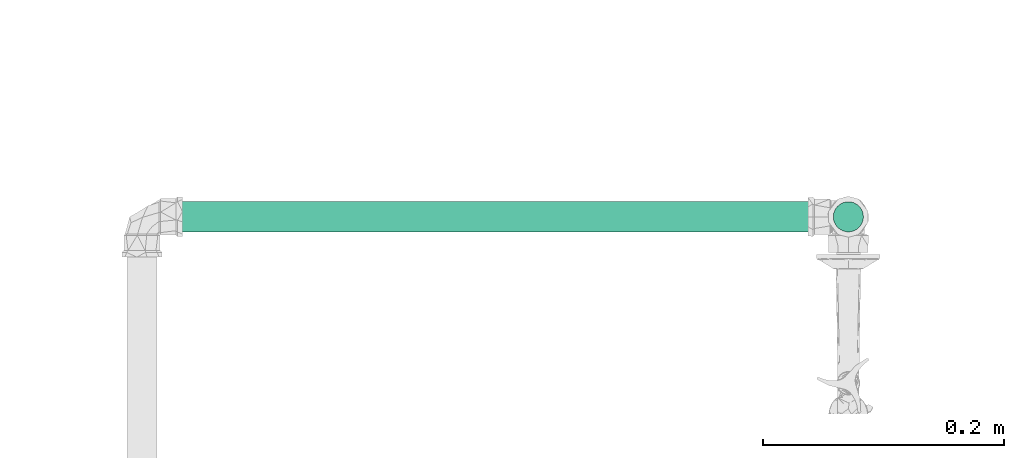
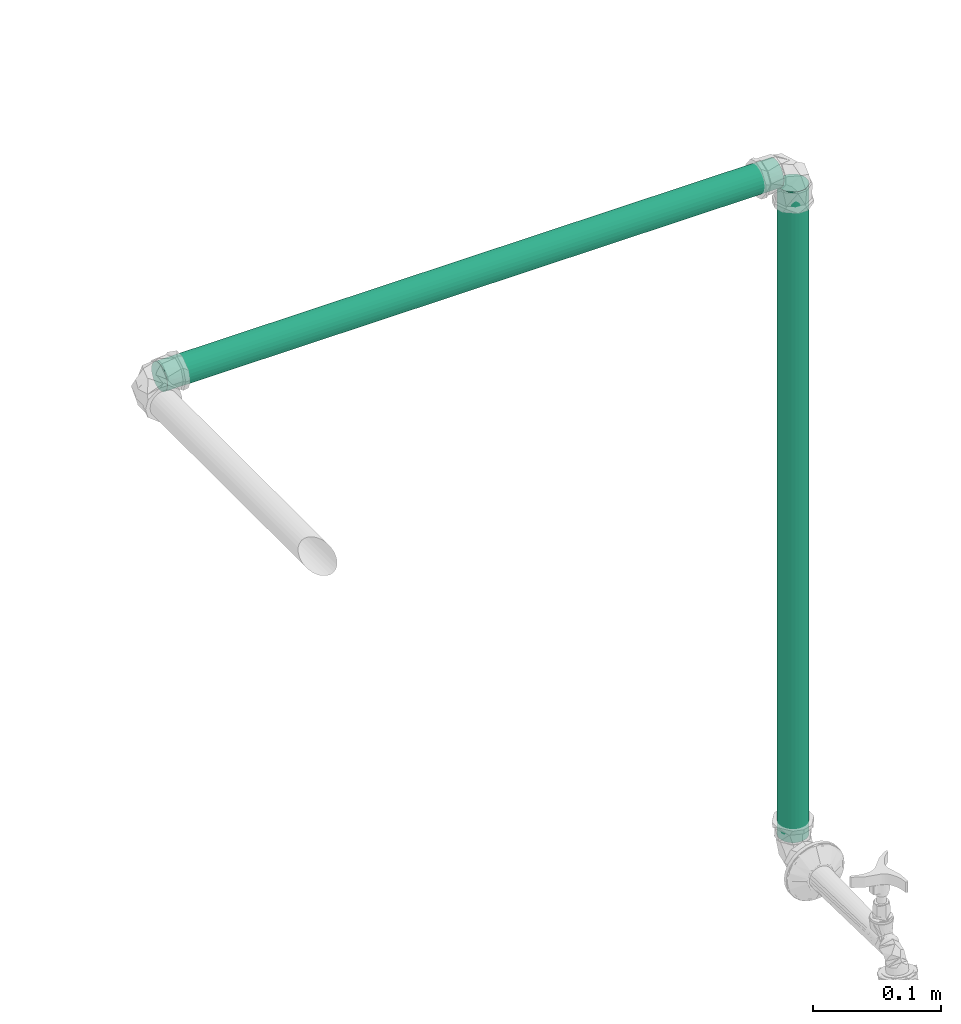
# One storey, part 275 of 589: 2 flow segments.
"""IFC2X3 building model written with IfcOpenShell, lengths in millimetres."""

from ifc_helpers import new_model, entity, si_unit, converted_unit, derived_unit, direction, frame, frame_2d, origin, origin_2d_with_axis, place, context, subcontext, project, spatial, circle, extrude, type_object, element, save


model = new_model("IFC2X3")

# Units and contexts
model_context = context("Model", 3, precision=0.01, world=origin(), true_north=direction((6.123031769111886e-17, 1.0)))
body_context = subcontext(model_context, "Body", "Model", "MODEL_VIEW")
ifc_project = project(units=[si_unit("LENGTHUNIT", "METRE", prefix="MILLI"), si_unit("AREAUNIT", "SQUARE_METRE"), si_unit("VOLUMEUNIT", "CUBIC_METRE"), converted_unit("PLANEANGLEUNIT", "DEGREE", entity("IfcRatioMeasure", 0.017453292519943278), si_unit("PLANEANGLEUNIT", "RADIAN"), dimensions=[0, 0, 0, 0, 0, 0, 0]), si_unit("MASSUNIT", "GRAM", prefix="KILO"), derived_unit("MASSDENSITYUNIT", [(si_unit("MASSUNIT", "GRAM", prefix="KILO"), 1), (si_unit("LENGTHUNIT", "METRE"), -3)]), derived_unit("IONCONCENTRATIONUNIT", [(si_unit("MASSUNIT", "GRAM", prefix="KILO"), 1), (si_unit("LENGTHUNIT", "METRE"), -3)]), derived_unit("MOMENTOFINERTIAUNIT", [(si_unit("LENGTHUNIT", "METRE"), 4)]), si_unit("TIMEUNIT", "SECOND"), si_unit("FREQUENCYUNIT", "HERTZ"), si_unit("THERMODYNAMICTEMPERATUREUNIT", "DEGREE_CELSIUS"), derived_unit("THERMALTRANSMITTANCEUNIT", [(si_unit("MASSUNIT", "GRAM", prefix="KILO"), 1), (si_unit("THERMODYNAMICTEMPERATUREUNIT", "KELVIN"), -1), (si_unit("TIMEUNIT", "SECOND"), -3)]), derived_unit("THERMALCONDUCTANCEUNIT", [(si_unit("MASSUNIT", "GRAM", prefix="KILO"), 1), (si_unit("THERMODYNAMICTEMPERATUREUNIT", "KELVIN"), -1), (si_unit("TIMEUNIT", "SECOND"), -3), (si_unit("LENGTHUNIT", "METRE"), 1)]), derived_unit("VOLUMETRICFLOWRATEUNIT", [(si_unit("LENGTHUNIT", "METRE"), 3), (si_unit("TIMEUNIT", "SECOND"), -1)]), derived_unit("MASSFLOWRATEUNIT", [(si_unit("MASSUNIT", "GRAM", prefix="KILO"), 1), (si_unit("TIMEUNIT", "SECOND"), -1)]), derived_unit("ROTATIONALFREQUENCYUNIT", [(si_unit("TIMEUNIT", "SECOND"), -1)]), si_unit("ELECTRICCURRENTUNIT", "AMPERE"), si_unit("ELECTRICVOLTAGEUNIT", "VOLT"), si_unit("POWERUNIT", "WATT"), si_unit("FORCEUNIT", "NEWTON", prefix="KILO"), si_unit("ILLUMINANCEUNIT", "LUX"), si_unit("LUMINOUSFLUXUNIT", "LUMEN"), si_unit("LUMINOUSINTENSITYUNIT", "CANDELA"), derived_unit("USERDEFINED", [(si_unit("MASSUNIT", "GRAM", prefix="KILO"), -1), (si_unit("LENGTHUNIT", "METRE"), -2), (si_unit("TIMEUNIT", "SECOND"), 3), (si_unit("LUMINOUSFLUXUNIT", "LUMEN"), 1)]), derived_unit("USERDEFINED", [(si_unit("MASSUNIT", "GRAM", prefix="KILO"), 1), (si_unit("TIMEUNIT", "SECOND"), -3), (si_unit("LENGTHUNIT", "METRE"), 3), (si_unit("ELECTRICCURRENTUNIT", "AMPERE"), -2)]), derived_unit("SOUNDPOWERUNIT", [(si_unit("MASSUNIT", "GRAM", prefix="KILO"), 1), (si_unit("TIMEUNIT", "SECOND"), -3), (si_unit("LENGTHUNIT", "METRE"), 2)]), derived_unit("SOUNDPRESSUREUNIT", [(si_unit("MASSUNIT", "GRAM", prefix="KILO"), 1), (si_unit("LENGTHUNIT", "METRE"), -1), (si_unit("TIMEUNIT", "SECOND"), -2)]), derived_unit("LINEARVELOCITYUNIT", [(si_unit("LENGTHUNIT", "METRE"), 1), (si_unit("TIMEUNIT", "SECOND"), -1)]), si_unit("PRESSUREUNIT", "PASCAL"), derived_unit("USERDEFINED", [(si_unit("MASSUNIT", "GRAM", prefix="KILO"), 1), (si_unit("LENGTHUNIT", "METRE"), -2), (si_unit("TIMEUNIT", "SECOND"), -2)]), derived_unit("LINEARFORCEUNIT", [(si_unit("MASSUNIT", "GRAM", prefix="KILO"), 1), (si_unit("TIMEUNIT", "SECOND"), -2)]), derived_unit("PLANARFORCEUNIT", [(si_unit("MASSUNIT", "GRAM", prefix="KILO"), 1), (si_unit("LENGTHUNIT", "METRE"), -1), (si_unit("TIMEUNIT", "SECOND"), -2)]), derived_unit("SPECIFICHEATCAPACITYUNIT", [(si_unit("THERMODYNAMICTEMPERATUREUNIT", "KELVIN"), -1), (si_unit("LENGTHUNIT", "METRE"), 2), (si_unit("TIMEUNIT", "SECOND"), -2)]), derived_unit("HEATINGVALUEUNIT", [(si_unit("LENGTHUNIT", "METRE"), 2), (si_unit("TIMEUNIT", "SECOND"), -2)]), derived_unit("VAPORPERMEABILITYUNIT", [(si_unit("LENGTHUNIT", "METRE"), -1), (si_unit("TIMEUNIT", "SECOND"), 1)]), derived_unit("DYNAMICVISCOSITYUNIT", [(si_unit("MASSUNIT", "GRAM", prefix="KILO"), 1), (si_unit("TIMEUNIT", "SECOND"), -1), (si_unit("LENGTHUNIT", "METRE"), -1)]), derived_unit("THERMALEXPANSIONCOEFFICIENTUNIT", [(si_unit("THERMODYNAMICTEMPERATUREUNIT", "KELVIN"), -1)]), derived_unit("MODULUSOFELASTICITYUNIT", [(si_unit("MASSUNIT", "GRAM", prefix="KILO"), 1), (si_unit("LENGTHUNIT", "METRE"), -1), (si_unit("TIMEUNIT", "SECOND"), -2)]), derived_unit("ISOTHERMALMOISTURECAPACITYUNIT", [(si_unit("LENGTHUNIT", "METRE"), 3), (si_unit("MASSUNIT", "GRAM", prefix="KILO"), -1)]), derived_unit("MOISTUREDIFFUSIVITYUNIT", [(si_unit("TIMEUNIT", "SECOND"), -1), (si_unit("LENGTHUNIT", "METRE"), 2)])], contexts=[model_context])

# Site, building, storey
site_placement = place(None, origin())
site = spatial("IfcSite", under=ifc_project, at=site_placement, Name="Default", CompositionType="ELEMENT")
building_placement = place(site_placement, origin())
building = spatial("IfcBuilding", under=site, at=building_placement, CompositionType="ELEMENT")
storey_placement = place(building_placement, frame((0.0, 0.0, 100.0)))
storey = spatial("IfcBuildingStorey", under=building, at=storey_placement, Name="TÉRREO", CompositionType="ELEMENT", Elevation=100.0)

# Flow segments
pipe_segment_type = type_object("IfcPipeSegmentType", Name="Tipos de tubos:PVC Marrom Soldável", PredefinedType="NOTDEFINED")
flow_segment_1_placement = place(storey_placement, origin())
element("IfcFlowSegment", 1, at=flow_segment_1_placement, inside=storey, type_object=pipe_segment_type, Name="Tipos de tubos:PVC Marrom Soldável", ObjectType="Tipos de tubos:PVC Marrom Soldável", context=body_context, shape_type="SweptSolid", body=[
    extrude(circle(Radius=12.5, at=frame_2d((0.0, 2.707167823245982e-13), x_axis=(1.0, 0.0))), frame((-452.18535366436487, 7544.222132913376, 1230.0), z_axis=(1.0, 0.0, 0.0), x_axis=(0.0, -1.0, 0.0)), (0.0, 0.0, 1.0), 554.8829836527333),
])
flow_segment_2_placement = place(storey_placement, origin())
element("IfcFlowSegment", 2, at=flow_segment_2_placement, inside=storey, type_object=pipe_segment_type, Name="Tipos de tubos:PVC Marrom Soldável", ObjectType="Tipos de tubos:PVC Marrom Soldável", context=body_context, shape_type="SweptSolid", body=[
    extrude(circle(Radius=12.5, at=origin_2d_with_axis()), frame((118.09762998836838, 7544.222132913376, 595.299999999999)), (0.0, 0.0, 1.0), 619.3000000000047),
])

save(model, "model.ifc")
